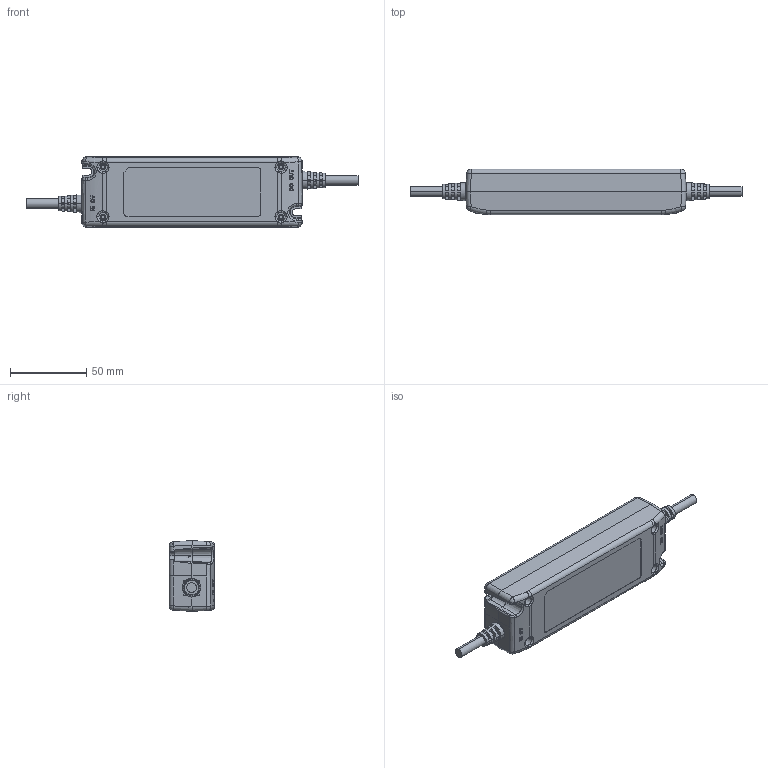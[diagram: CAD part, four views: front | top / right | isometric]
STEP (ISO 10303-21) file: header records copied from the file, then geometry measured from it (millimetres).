
FILE_DESCRIPTION(('OneSpaceDesigner STEP Export'),'2;1');
FILE_NAME('PLN-30.stp','2010-06-10T14:40:18',(''),(''),'OneSpace Designer STEP processor for AP214 (Solid Model)','OneSpace Designer 13.20 11-May-2005 (C) CoCreate Software GmbH','');
FILE_SCHEMA(('AUTOMOTIVE_DESIGN { 1 0 10303 214 1 1 1 1 }'));
Length unit declared in the file: millimetre
Products named in the file (4): CASE; sr1; PCB; PLN-30
Assembly tree (4 placements, depth 2):
  PLN-30
    sr1  x2
    PCB
    CASE
Bounding box: 218.35 x 30 x 46.35 mm (x, y, z)
Volume: 64617.3 mm3; surface area: 65556.5 mm2
Topology: 4 solids, 6 shells, 1229 faces, 3295 edges, 2116 vertices
Faces by surface type: plane 848, cylinder 150, cone 111, torus 58, bspline 54, sphere 8
Entity records: 38467 total; most frequent: CARTESIAN_POINT 10797, ORIENTED_EDGE 6162, DIRECTION 4943, EDGE_CURVE 3081, VERTEX_POINT 1978, VECTOR 1931, LINE 1931, AXIS2_PLACEMENT_3D 1506
